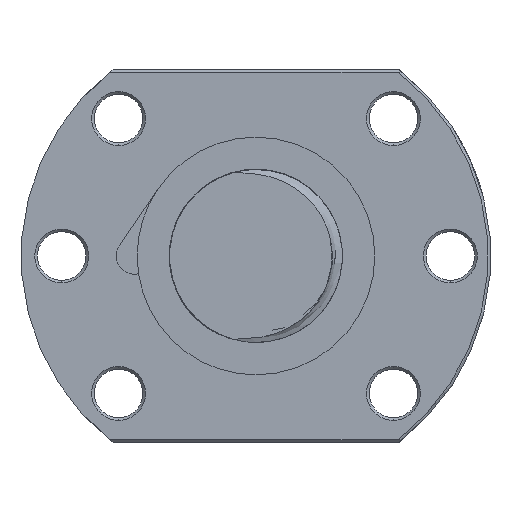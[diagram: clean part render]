
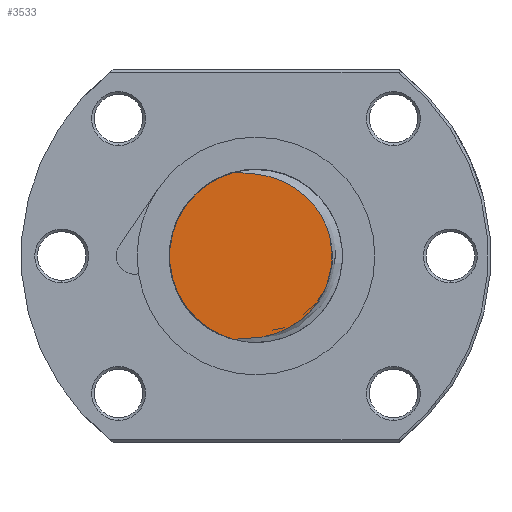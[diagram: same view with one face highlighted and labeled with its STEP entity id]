
A CAD part, left-side view. The second image highlights one B-rep face of the part: STEP entity #3533.
In plain terms, the highlighted planar face has unit normal (-1, 0, 0).
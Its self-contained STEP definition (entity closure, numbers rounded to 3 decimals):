
#2004 = VERTEX_POINT ( 'NONE', #4397 ) ;
#2008 = EDGE_CURVE ( 'NONE', #2077, #2004, #4426, .T. ) ;
#2077 = VERTEX_POINT ( 'NONE', #6445 ) ;
#3533 = ADVANCED_FACE ( 'NONE', ( #25395 ), #25372, .F. ) ;
#3534 = EDGE_LOOP ( 'NONE', ( #3645, #3646 ) ) ;
#3645 = ORIENTED_EDGE ( 'NONE', *, *, #2008, .F. ) ;
#3646 = ORIENTED_EDGE ( 'NONE', *, *, #3647, .T. ) ;
#3647 = EDGE_CURVE ( 'NONE', #2077, #2004, #42215, .T. ) ;
#4395 = CARTESIAN_POINT ( 'NONE',  ( -172., 0., 0. ) ) ;
#4397 = CARTESIAN_POINT ( 'NONE',  ( -172., 4.163, 15.449 ) ) ;
#4423 = DIRECTION ( 'NONE',  ( 0., 1., 0. ) ) ;
#4424 = DIRECTION ( 'NONE',  ( 1., 0., 0. ) ) ;
#4425 = AXIS2_PLACEMENT_3D ( 'NONE', #4395, #4424, #4423 ) ;
#4426 = CIRCLE ( 'NONE', #4425, 16. ) ;
#6445 = CARTESIAN_POINT ( 'NONE',  ( -172., 4.162, -15.449 ) ) ;
#25364 = DIRECTION ( 'NONE',  ( 0., 0., -1. ) ) ;
#25366 = DIRECTION ( 'NONE',  ( 1., 0., 0. ) ) ;
#25368 = CARTESIAN_POINT ( 'NONE',  ( -172., 0., 0. ) ) ;
#25370 = AXIS2_PLACEMENT_3D ( 'NONE', #25368, #25366, #25364 ) ;
#25372 = PLANE ( 'NONE',  #25370 ) ;
#25395 = FACE_OUTER_BOUND ( 'NONE', #3534, .T. ) ;
#42207 = CARTESIAN_POINT ( 'NONE',  ( -172., 3.04, -15.398 ) ) ;
#42209 = CARTESIAN_POINT ( 'NONE',  ( -172., 3.602, -15.415 ) ) ;
#42211 = CARTESIAN_POINT ( 'NONE',  ( -172., 3.883, -15.424 ) ) ;
#42213 = CARTESIAN_POINT ( 'NONE',  ( -172., 4.162, -15.449 ) ) ;
#42215 = B_SPLINE_CURVE_WITH_KNOTS ( 'NONE', 3,
 ( #42213, #42211, #42209, #42207, #42386, #42385, #42383, #42381, #42379, #42377, #42376, #42374, #42372, #42370, #42368, #42366, #42364, #42362, #42360, #42358, #42356, #42353, #42351, #42349, #42348, #42346, #42344, #42342, #42340, #42338, #42336, #42334, #42332, #42330, #42328, #42326, #42324, #42322, #42320, #42319, #42317, #42315, #42313, #42311, #42309, #42307, #42305, #42303, #42301, #42299, #42297, #42295, #42293, #42291, #42289, #42440, #42438, #42436, #42434, #42432, #42430, #42427, #42425, #42423, #42421, #42419 ),
 .UNSPECIFIED., .F., .F.,
 ( 4, 2, 2, 2, 2, 2, 2, 2, 2, 2, 2, 2, 2, 2, 2, 2, 2, 2, 2, 2, 2, 2, 2, 2, 2, 2, 2, 2, 2, 2, 2, 2, 4 ),
 ( 0.001, 0.002, 0.003, 0.005, 0.006, 0.008, 0.012, 0.013, 0.015, 0.017, 0.018, 0.022, 0.023, 0.023, 0.025, 0.027, 0.028, 0.028, 0.032, 0.033, 0.034, 0.035, 0.037, 0.039, 0.042, 0.044, 0.045, 0.047, 0.049, 0.052, 0.054, 0.055, 0.055 ),
 .UNSPECIFIED. ) ;
#42289 = CARTESIAN_POINT ( 'NONE',  ( -172., -4.651, 13.979 ) ) ;
#42291 = CARTESIAN_POINT ( 'NONE',  ( -172., -5.162, 13.755 ) ) ;
#42293 = CARTESIAN_POINT ( 'NONE',  ( -172., -6.158, 13.253 ) ) ;
#42295 = CARTESIAN_POINT ( 'NONE',  ( -172., -6.644, 12.977 ) ) ;
#42297 = CARTESIAN_POINT ( 'NONE',  ( -172., -7.591, 12.368 ) ) ;
#42299 = CARTESIAN_POINT ( 'NONE',  ( -172., -8.049, 12.037 ) ) ;
#42301 = CARTESIAN_POINT ( 'NONE',  ( -172., -9.354, 10.984 ) ) ;
#42303 = CARTESIAN_POINT ( 'NONE',  ( -172., -10.142, 10.195 ) ) ;
#42305 = CARTESIAN_POINT ( 'NONE',  ( -172., -11.195, 8.876 ) ) ;
#42307 = CARTESIAN_POINT ( 'NONE',  ( -172., -11.522, 8.415 ) ) ;
#42309 = CARTESIAN_POINT ( 'NONE',  ( -172., -12.117, 7.469 ) ) ;
#42311 = CARTESIAN_POINT ( 'NONE',  ( -172., -12.388, 6.981 ) ) ;
#42313 = CARTESIAN_POINT ( 'NONE',  ( -172., -12.873, 5.978 ) ) ;
#42315 = CARTESIAN_POINT ( 'NONE',  ( -172., -13.089, 5.462 ) ) ;
#42317 = CARTESIAN_POINT ( 'NONE',  ( -172., -13.369, 4.666 ) ) ;
#42319 = CARTESIAN_POINT ( 'NONE',  ( -172., -13.456, 4.396 ) ) ;
#42320 = CARTESIAN_POINT ( 'NONE',  ( -172., -13.612, 3.856 ) ) ;
#42322 = CARTESIAN_POINT ( 'NONE',  ( -172., -13.682, 3.585 ) ) ;
#42324 = CARTESIAN_POINT ( 'NONE',  ( -172., -13.993, 2.223 ) ) ;
#42326 = CARTESIAN_POINT ( 'NONE',  ( -172., -14.12, 1.116 ) ) ;
#42328 = CARTESIAN_POINT ( 'NONE',  ( -172., -14.119, -0.292 ) ) ;
#42330 = CARTESIAN_POINT ( 'NONE',  ( -172., -14.11, -0.575 ) ) ;
#42332 = CARTESIAN_POINT ( 'NONE',  ( -172., -14.078, -1.136 ) ) ;
#42334 = CARTESIAN_POINT ( 'NONE',  ( -172., -14.054, -1.415 ) ) ;
#42336 = CARTESIAN_POINT ( 'NONE',  ( -172., -13.958, -2.248 ) ) ;
#42338 = CARTESIAN_POINT ( 'NONE',  ( -172., -13.863, -2.796 ) ) ;
#42340 = CARTESIAN_POINT ( 'NONE',  ( -172., -13.613, -3.882 ) ) ;
#42342 = CARTESIAN_POINT ( 'NONE',  ( -172., -13.457, -4.419 ) ) ;
#42344 = CARTESIAN_POINT ( 'NONE',  ( -172., -13.176, -5.215 ) ) ;
#42346 = CARTESIAN_POINT ( 'NONE',  ( -172., -13.074, -5.479 ) ) ;
#42348 = CARTESIAN_POINT ( 'NONE',  ( -172., -12.857, -5.998 ) ) ;
#42349 = CARTESIAN_POINT ( 'NONE',  ( -172., -12.741, -6.253 ) ) ;
#42351 = CARTESIAN_POINT ( 'NONE',  ( -172., -12.13, -7.509 ) ) ;
#42353 = CARTESIAN_POINT ( 'NONE',  ( -172., -11.536, -8.45 ) ) ;
#42356 = CARTESIAN_POINT ( 'NONE',  ( -172., -10.484, -9.765 ) ) ;
#42358 = CARTESIAN_POINT ( 'NONE',  ( -172., -10.106, -10.188 ) ) ;
#42360 = CARTESIAN_POINT ( 'NONE',  ( -172., -9.315, -10.979 ) ) ;
#42362 = CARTESIAN_POINT ( 'NONE',  ( -172., -8.901, -11.35 ) ) ;
#42364 = CARTESIAN_POINT ( 'NONE',  ( -172., -8.036, -12.047 ) ) ;
#42366 = CARTESIAN_POINT ( 'NONE',  ( -172., -7.585, -12.372 ) ) ;
#42368 = CARTESIAN_POINT ( 'NONE',  ( -172., -6.647, -12.975 ) ) ;
#42370 = CARTESIAN_POINT ( 'NONE',  ( -172., -6.156, -13.255 ) ) ;
#42372 = CARTESIAN_POINT ( 'NONE',  ( -172., -4.647, -14.013 ) ) ;
#42374 = CARTESIAN_POINT ( 'NONE',  ( -172., -3.601, -14.408 ) ) ;
#42376 = CARTESIAN_POINT ( 'NONE',  ( -172., -1.979, -14.849 ) ) ;
#42377 = CARTESIAN_POINT ( 'NONE',  ( -172., -1.427, -14.97 ) ) ;
#42379 = CARTESIAN_POINT ( 'NONE',  ( -172., -0.318, -15.163 ) ) ;
#42381 = CARTESIAN_POINT ( 'NONE',  ( -172., 0.239, -15.234 ) ) ;
#42383 = CARTESIAN_POINT ( 'NONE',  ( -172., 1.356, -15.335 ) ) ;
#42385 = CARTESIAN_POINT ( 'NONE',  ( -172., 1.917, -15.364 ) ) ;
#42386 = CARTESIAN_POINT ( 'NONE',  ( -172., 2.759, -15.392 ) ) ;
#42419 = CARTESIAN_POINT ( 'NONE',  ( -172., 4.163, 15.449 ) ) ;
#42421 = CARTESIAN_POINT ( 'NONE',  ( -172., 3.883, 15.423 ) ) ;
#42423 = CARTESIAN_POINT ( 'NONE',  ( -172., 3.601, 15.415 ) ) ;
#42425 = CARTESIAN_POINT ( 'NONE',  ( -172., 3.038, 15.398 ) ) ;
#42427 = CARTESIAN_POINT ( 'NONE',  ( -172., 2.757, 15.392 ) ) ;
#42430 = CARTESIAN_POINT ( 'NONE',  ( -172., 1.912, 15.364 ) ) ;
#42432 = CARTESIAN_POINT ( 'NONE',  ( -172., 1.349, 15.334 ) ) ;
#42434 = CARTESIAN_POINT ( 'NONE',  ( -172., -0.334, 15.182 ) ) ;
#42436 = CARTESIAN_POINT ( 'NONE',  ( -172., -1.441, 14.995 ) ) ;
#42438 = CARTESIAN_POINT ( 'NONE',  ( -172., -3.072, 14.552 ) ) ;
#42440 = CARTESIAN_POINT ( 'NONE',  ( -172., -3.607, 14.378 ) ) ;
